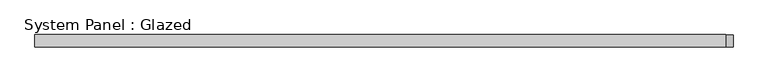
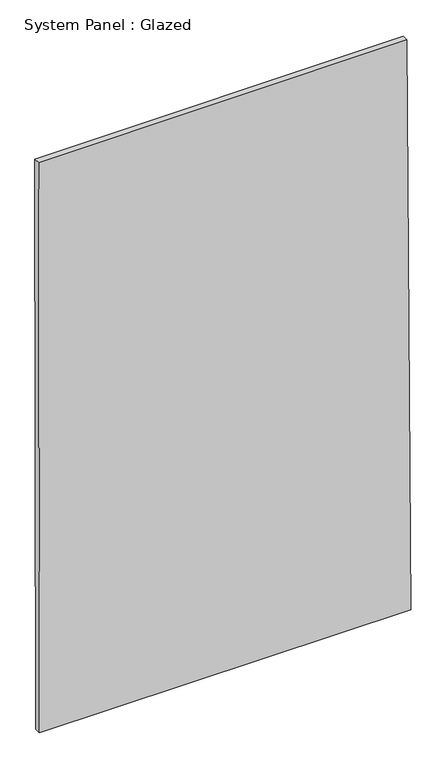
"""IFC4 building model written with IfcOpenShell, lengths in millimetres: plate geometry, System Panel : Glazed."""

from ifc_helpers import new_model, si_unit, frame, origin, place, context, project, spatial, polyline, outline, extrude, source, transform, mapped, element, save


def system_panel_glazed_bd283e11(model_context):
    return source(origin(), model_context, "Body", "SweptSolid", [
        extrude(outline(polyline([(0.0, -712.6891492), (0.0, 715.5540567), (2322.3945916, 700.2193397), (2318.8813537, -715.5540567), (0.0, -712.6891492)])), frame((0.0, -49.5, 0.0), z_axis=(0.0, 1.0, 0.0), x_axis=(0.0, 0.0, 1.0)), (0.0, 0.0, 1.0), 25.0),
    ])


if __name__ == "__main__":
    model = new_model("IFC4")
    model_context = context("Model", 3, world=origin())
    ifc_project = project(units=[si_unit("LENGTHUNIT", "METRE", prefix="MILLI")], contexts=[model_context])
    site = spatial("IfcSite", under=ifc_project)
    building = spatial("IfcBuilding", under=site)
    placement = place(None, origin())
    system_panel_glazed_shape = system_panel_glazed_bd283e11(model_context)
    element("IfcPlate", 1, ObjectType="System Panel : Glazed", at=placement, inside=building, context=model_context, shape_type="MappedRepresentation", body=[
        mapped(system_panel_glazed_shape, transform((0.0, 0.0, 0.0), x_axis=(1.0, 0.0, 0.0), y_axis=(0.0, 1.0, 0.0), z_axis=(0.0, 0.0, 1.0))),
    ])
    save(model, "model.ifc")
